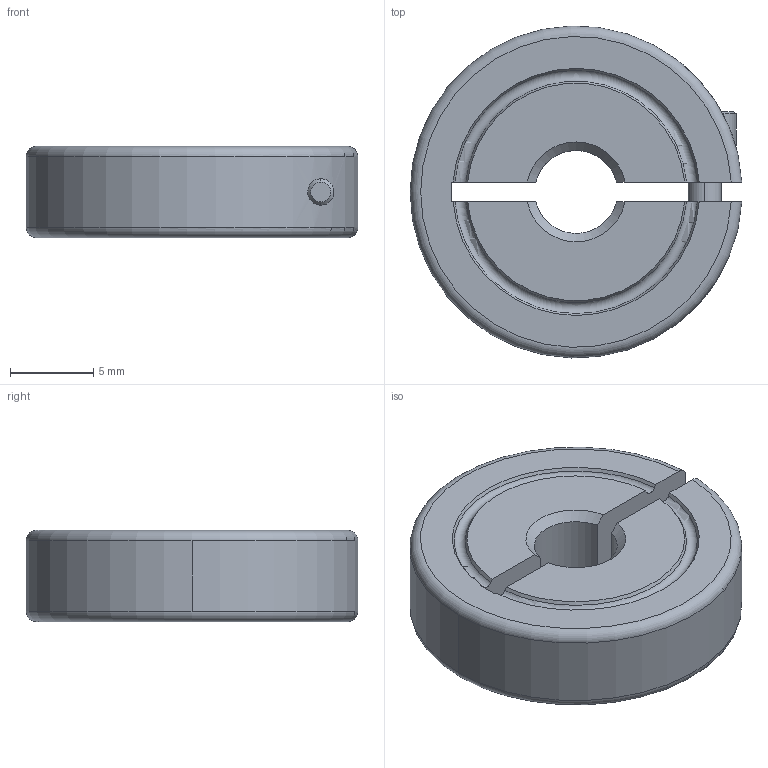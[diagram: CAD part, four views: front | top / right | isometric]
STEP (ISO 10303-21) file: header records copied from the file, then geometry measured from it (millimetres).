
FILE_DESCRIPTION (( 'STEP AP214' ), '1' );
FILE_NAME ('Ruland_ENCL20-5MM-A.step', '2018-10-02T19:12:18', ( '' ), ( '' ), 'SwSTEP 2.0', 'SolidWorks 2018', '' );
FILE_SCHEMA (( 'AUTOMOTIVE_DESIGN' ));
Length unit declared in the file: inch
Products named in the file (3): ENCLxx-xx-x_ENCL20-5MM-A; Ruland_ENCL20-5MM-A; CAP SCREWS_CFM2_6
Assembly tree (2 placements, depth 2):
  Ruland_ENCL20-5MM-A
    ENCLxx-xx-x_ENCL20-5MM-A
    CAP SCREWS_CFM2_6
Bounding box: 19.98 x 19.99 x 5.5 mm (x, y, z)
Volume: 1491.3 mm3; surface area: 1234.3 mm2
Topology: 2 solids, 2 shells, 53 faces, 132 edges, 86 vertices
Faces by surface type: plane 20, cylinder 15, cone 12, torus 6
Entity records: 1826 total; most frequent: CARTESIAN_POINT 427, DIRECTION 274, ORIENTED_EDGE 264, EDGE_CURVE 132, AXIS2_PLACEMENT_3D 105, VERTEX_POINT 86, LINE 64, VECTOR 64
